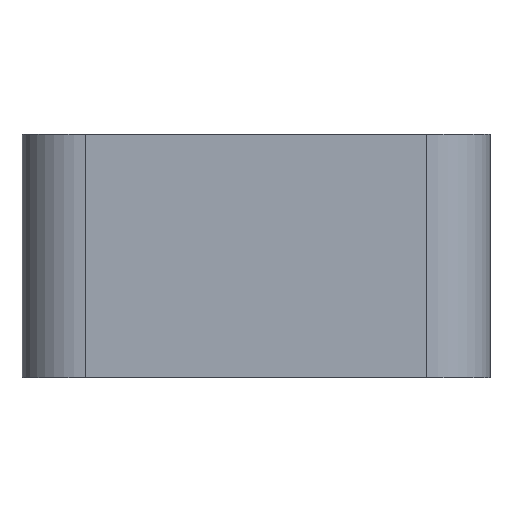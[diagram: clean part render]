
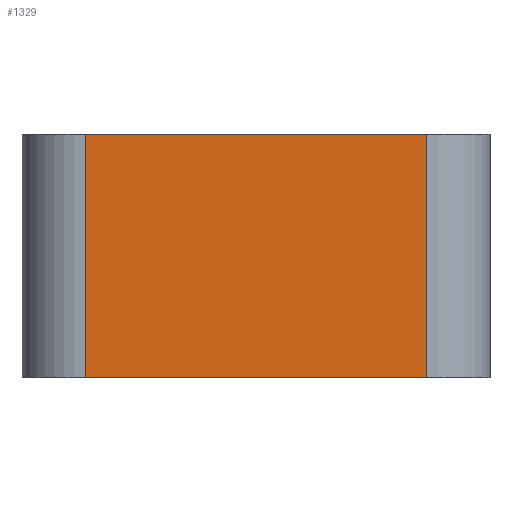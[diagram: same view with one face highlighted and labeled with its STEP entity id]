
A CAD part, front view. The second image highlights one B-rep face of the part: STEP entity #1329.
In plain terms, the highlighted planar face has unit normal (0, -1, 0).
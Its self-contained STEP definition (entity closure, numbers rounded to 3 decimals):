
#13 = EDGE_CURVE ( 'NONE', #301, #284, #269, .T. ) ;
#114 = DIRECTION ( 'NONE',  ( 1., 0., 0. ) ) ;
#118 = DIRECTION ( 'NONE',  ( 1., 0., 0. ) ) ;
#193 = DIRECTION ( 'NONE',  ( 0., 0., -1. ) ) ;
#196 = CARTESIAN_POINT ( 'NONE',  ( -9.6, -1.6, 10. ) ) ;
#202 = EDGE_CURVE ( 'NONE', #1268, #284, #1190, .T. ) ;
#219 = VECTOR ( 'NONE', #118, 1000. ) ;
#250 = CARTESIAN_POINT ( 'NONE',  ( 7., -1.6, 10. ) ) ;
#269 = LINE ( 'NONE', #940, #1125 ) ;
#275 = CARTESIAN_POINT ( 'NONE',  ( 7., -1.6, 0. ) ) ;
#284 = VERTEX_POINT ( 'NONE', #250 ) ;
#287 = EDGE_LOOP ( 'NONE', ( #297, #709, #1256, #1166 ) ) ;
#297 = ORIENTED_EDGE ( 'NONE', *, *, #1003, .T. ) ;
#301 = VERTEX_POINT ( 'NONE', #275 ) ;
#353 = DIRECTION ( 'NONE',  ( 0., 1., 0. ) ) ;
#360 = PLANE ( 'NONE',  #1363 ) ;
#671 = DIRECTION ( 'NONE',  ( 0., 0., 1. ) ) ;
#709 = ORIENTED_EDGE ( 'NONE', *, *, #13, .T. ) ;
#777 = CARTESIAN_POINT ( 'NONE',  ( -9.6, -1.6, 10. ) ) ;
#818 = VECTOR ( 'NONE', #193, 1000. ) ;
#877 = EDGE_CURVE ( 'NONE', #1268, #1180, #1277, .T. ) ;
#940 = CARTESIAN_POINT ( 'NONE',  ( 7., -1.6, 10. ) ) ;
#1003 = EDGE_CURVE ( 'NONE', #1180, #301, #1101, .T. ) ;
#1045 = DIRECTION ( 'NONE',  ( 0., 0., 1. ) ) ;
#1101 = LINE ( 'NONE', #1321, #1254 ) ;
#1125 = VECTOR ( 'NONE', #1045, 1000. ) ;
#1129 = FACE_OUTER_BOUND ( 'NONE', #287, .T. ) ;
#1166 = ORIENTED_EDGE ( 'NONE', *, *, #877, .T. ) ;
#1180 = VERTEX_POINT ( 'NONE', #1421 ) ;
#1190 = LINE ( 'NONE', #196, #219 ) ;
#1254 = VECTOR ( 'NONE', #114, 1000. ) ;
#1256 = ORIENTED_EDGE ( 'NONE', *, *, #202, .F. ) ;
#1268 = VERTEX_POINT ( 'NONE', #1382 ) ;
#1277 = LINE ( 'NONE', #1288, #818 ) ;
#1288 = CARTESIAN_POINT ( 'NONE',  ( -7., -1.6, 10. ) ) ;
#1321 = CARTESIAN_POINT ( 'NONE',  ( -9.6, -1.6, 0. ) ) ;
#1329 = ADVANCED_FACE ( 'NONE', ( #1129 ), #360, .F. ) ;
#1363 = AXIS2_PLACEMENT_3D ( 'NONE', #777, #353, #671 ) ;
#1382 = CARTESIAN_POINT ( 'NONE',  ( -7., -1.6, 10. ) ) ;
#1421 = CARTESIAN_POINT ( 'NONE',  ( -7., -1.6, 0. ) ) ;
